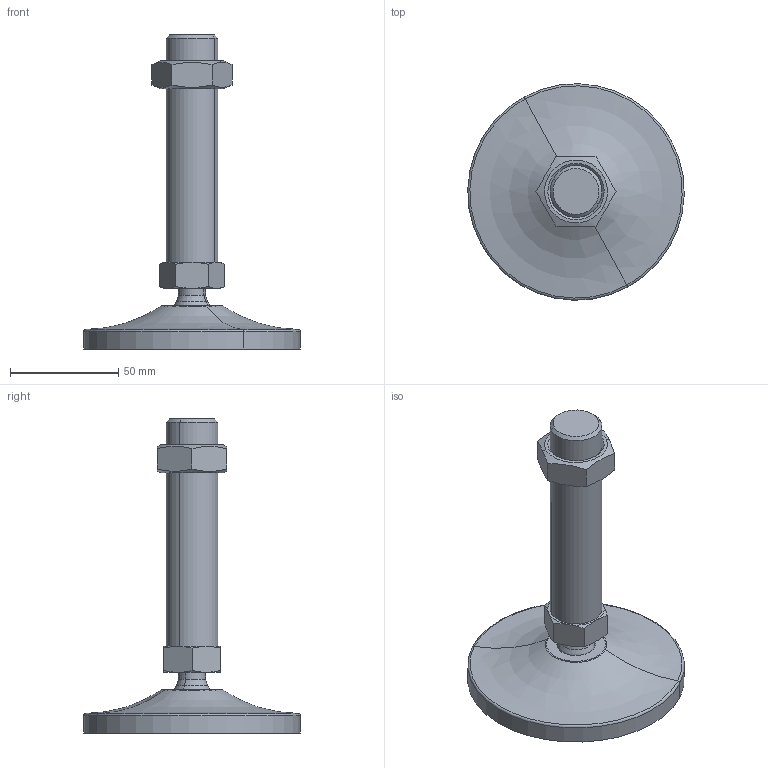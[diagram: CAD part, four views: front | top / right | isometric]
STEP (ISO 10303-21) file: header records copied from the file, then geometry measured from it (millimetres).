
FILE_DESCRIPTION(('CATIA V5 STEP Exchange'),'2;1');
FILE_NAME('C:\Users\ALI OZGUN\Desktop\alhan\saplama2\560102415.stp','2017-09-21T10:35:16+00:00',('none'),('none'),'CATIA Version 5 Release 21 GA (IN-10)','CATIA V5 STEP AP203','none');
FILE_SCHEMA(('CONFIG_CONTROL_DESIGN'));
Length unit declared in the file: millimetre
Products named in the file (1): 560102415
Bounding box: 99.97 x 99.97 x 145 mm (x, y, z)
Volume: 124101.9 mm3; surface area: 34451.2 mm2
Topology: 3 solids, 3 shells, 72 faces, 160 edges, 95 vertices
Faces by surface type: cone 28, plane 20, cylinder 14, torus 4, revolution 4, sphere 2
Entity records: 2121 total; most frequent: CARTESIAN_POINT 723, ORIENTED_EDGE 316, DIRECTION 191, EDGE_CURVE 158, AXIS2_PLACEMENT_3D 105, VERTEX_POINT 95, EDGE_LOOP 79, ADVANCED_FACE 72
